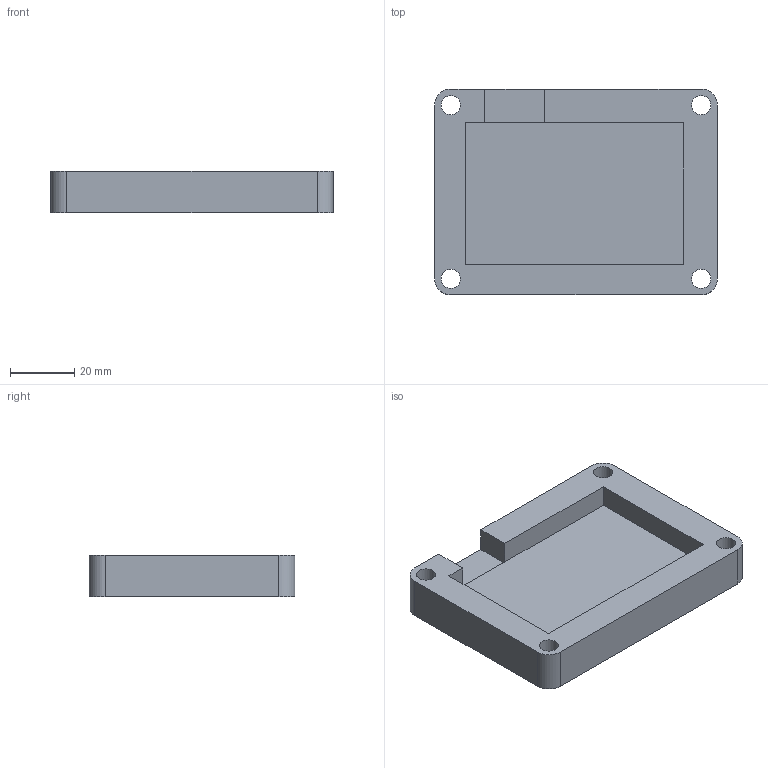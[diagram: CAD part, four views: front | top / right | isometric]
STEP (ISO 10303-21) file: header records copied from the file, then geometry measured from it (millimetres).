
FILE_DESCRIPTION(/* description */ (''),/* implementation_level */ '2;1');
FILE_NAME(/* name */ 'Hack pad DOWN.step',/* time_stamp */ '2026-01-10T15:55:29-06:00',/* author */ (''),/* organization */ (''),/* preprocessor_version */ 'ST-DEVELOPER v20.1',/* originating_system */ 'Autodesk Translation Framework v14.21.0.0',/* authorisation */ '');
FILE_SCHEMA (('AUTOMOTIVE_DESIGN { 1 0 10303 214 3 1 1 }'));
Length unit declared in the file: millimetre
Products named in the file (2): 2026-01-10-15-11-51-221; 2026-01-10-15-31-52-095
Assembly tree (1 placements, depth 2):
  2026-01-10-15-11-51-221
    2026-01-10-15-31-52-095
Bounding box: 87.67 x 63.86 x 13 mm (x, y, z)
Volume: 48803.7 mm3; surface area: 24454.3 mm2
Topology: 2 solids, 2 shells, 28 faces, 72 edges, 48 vertices
Faces by surface type: plane 20, cylinder 8
Full cylindrical faces by diameter (mm): 6 x4
Entity records: 922 total; most frequent: CARTESIAN_POINT 151, DIRECTION 150, ORIENTED_EDGE 144, EDGE_CURVE 72, LINE 56, VECTOR 56, VERTEX_POINT 48, AXIS2_PLACEMENT_3D 47
